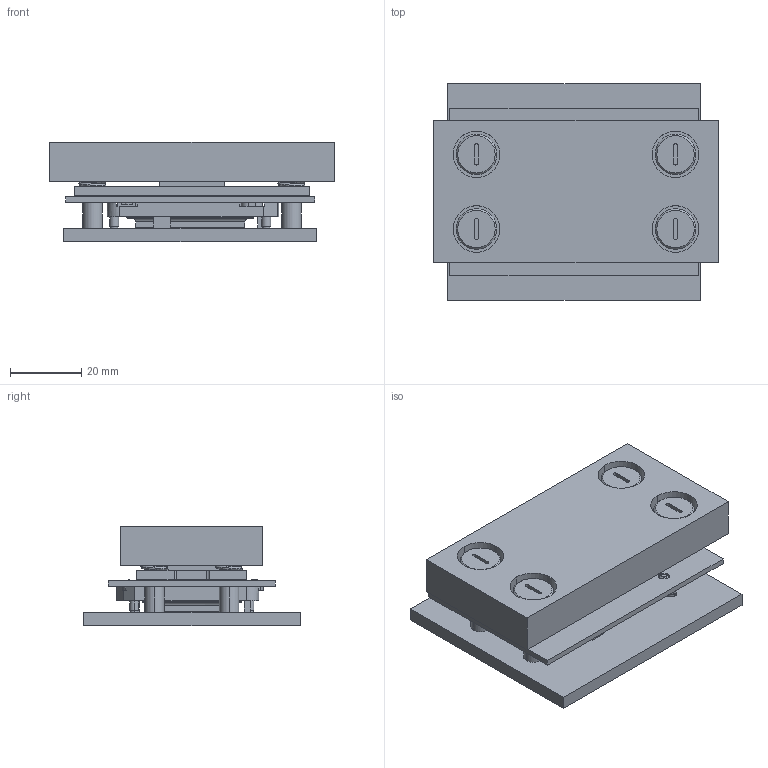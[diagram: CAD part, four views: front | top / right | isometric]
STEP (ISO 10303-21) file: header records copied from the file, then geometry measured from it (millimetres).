
FILE_DESCRIPTION (( 'STEP AP214' ), '1' );
FILE_NAME ('2519084.STEP', '2023-11-27T19:41:58', ( '' ), ( '' ), 'SwSTEP 2.0', 'SolidWorks 2021', '' );
FILE_SCHEMA (( 'AUTOMOTIVE_DESIGN' ));
Length unit declared in the file: millimetre
Products named in the file (22): 2519086-PCB-Raw; 2519092; 2519088; PCB-Pads; 2519085; 2509321-ta-65-1080p-ceramic; 2519089; Pad-Electrical; 2501795-ContactHousing; 2509321-ta-7-wglass; Pad-Elec-PCB-7TA; 2519087; LEE-LC035F01M_aSSY-iSO; 2519091; 2502999-IntFrame; 2509321-TA-65-1080p-DMD-ASSY; 2503000; 2519084; 2519090-Compressed; LEE-LC040D01M_aSSY-iSO; Pad-Marking; 2519086
Assembly tree (437 placements, depth 4):
  2519084
    2519085
    2503000
      2502999-IntFrame
      2501795-ContactHousing
    2509321-TA-65-1080p-DMD-ASSY
      2509321-ta-65-1080p-ceramic
      2509321-ta-7-wglass
      Pad-Marking
      Pad-Electrical  x203
    2519086
      2519086-PCB-Raw
      PCB-Pads
        Pad-Elec-PCB-7TA  x203
    2519087
    2519088
    2519089
    2519090-Compressed
    2519091  x4
    2519092  x4
    LEE-LC040D01M_aSSY-iSO  x4
    LEE-LC035F01M_aSSY-iSO  x4
Bounding box: 80 x 60.96 x 27.95 mm (x, y, z)
Volume: 64160 mm3; surface area: 51063.5 mm2
Topology: 433 solids, 433 shells, 2427 faces, 4373 edges, 2864 vertices
Faces by surface type: plane 1229, cylinder 1057, cone 69, torus 56, bspline 16
Entity records: 24625 total; most frequent: CARTESIAN_POINT 6162, DIRECTION 3860, ORIENTED_EDGE 2930, EDGE_CURVE 1465, AXIS2_PLACEMENT_3D 1464, VERTEX_POINT 955, VECTOR 932, LINE 932
